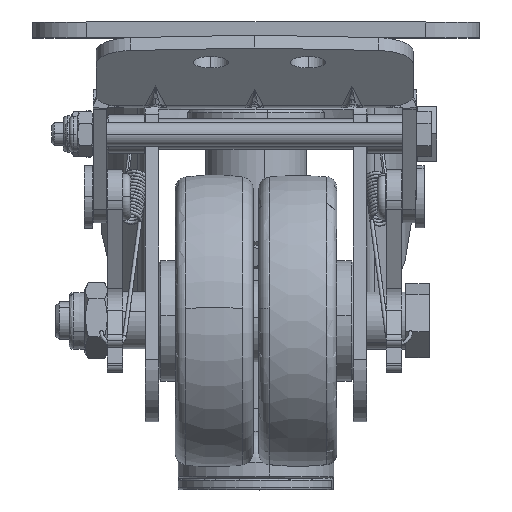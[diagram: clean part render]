
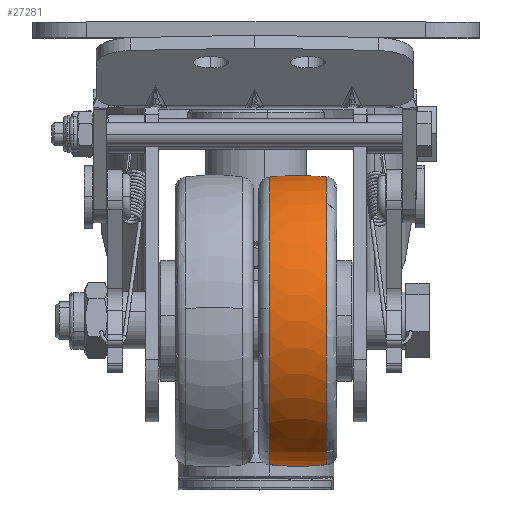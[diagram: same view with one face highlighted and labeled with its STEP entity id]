
A CAD part, top view. The second image highlights one B-rep face of the part: STEP entity #27281.
In plain terms, the highlighted toroidal (fillet/blend) face has major radius 32.5 mm and minor radius 70 mm.
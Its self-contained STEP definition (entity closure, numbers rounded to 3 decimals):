
#233 = DIRECTION ( 'NONE',  ( 0., -1., 0. ) ) ;
#873 = CARTESIAN_POINT ( 'NONE',  ( 10.75, 32.5, 0. ) ) ;
#1495 = AXIS2_PLACEMENT_3D ( 'NONE', #20779, #48176, #6043 ) ;
#2542 = CIRCLE ( 'NONE', #41782, 37.117 ) ;
#4681 = EDGE_CURVE ( 'NONE', #29223, #59093, #34683, .T. ) ;
#5433 = CIRCLE ( 'NONE', #1495, 37.117 ) ;
#6043 = DIRECTION ( 'NONE',  ( 0., 0., 1. ) ) ;
#6661 = FACE_OUTER_BOUND ( 'NONE', #28331, .T. ) ;
#8957 = EDGE_CURVE ( 'NONE', #59093, #18645, #2542, .T. ) ;
#10099 = EDGE_CURVE ( 'NONE', #31866, #29223, #34040, .T. ) ;
#12373 = ORIENTED_EDGE ( 'NONE', *, *, #10099, .T. ) ;
#12508 = DIRECTION ( 'NONE',  ( -1., 0., 0. ) ) ;
#13120 = DIRECTION ( 'NONE',  ( 0., 0., 1. ) ) ;
#15859 = CARTESIAN_POINT ( 'NONE',  ( 10.75, 0., 0. ) ) ;
#16200 = AXIS2_PLACEMENT_3D ( 'NONE', #15859, #30016, #38938 ) ;
#18645 = VERTEX_POINT ( 'NONE', #47803 ) ;
#20012 = AXIS2_PLACEMENT_3D ( 'NONE', #873, #51258, #29113 ) ;
#20779 = CARTESIAN_POINT ( 'NONE',  ( 3.437, 0., 0. ) ) ;
#21563 = CARTESIAN_POINT ( 'NONE',  ( 3.437, 0., 0. ) ) ;
#22075 = TOROIDAL_SURFACE ( 'NONE', #16200, -32.5, 70. ) ;
#22925 = ORIENTED_EDGE ( 'NONE', *, *, #4681, .T. ) ;
#24185 = AXIS2_PLACEMENT_3D ( 'NONE', #59841, #12508, #50625 ) ;
#26019 = EDGE_CURVE ( 'NONE', #31866, #42806, #33771, .T. ) ;
#27281 = ADVANCED_FACE ( 'NONE', ( #6661 ), #22075, .T. ) ;
#27334 = EDGE_CURVE ( 'NONE', #18645, #42806, #5433, .T. ) ;
#28331 = EDGE_LOOP ( 'NONE', ( #12373, #22925, #48501, #38100, #55184 ) ) ;
#28667 = CARTESIAN_POINT ( 'NONE',  ( 3.437, -37.117, 0. ) ) ;
#29113 = DIRECTION ( 'NONE',  ( -1., 0., 0. ) ) ;
#29223 = VERTEX_POINT ( 'NONE', #45318 ) ;
#29742 = AXIS2_PLACEMENT_3D ( 'NONE', #32193, #13120, #233 ) ;
#30016 = DIRECTION ( 'NONE',  ( -1., 0., 0. ) ) ;
#31866 = VERTEX_POINT ( 'NONE', #39787 ) ;
#32193 = CARTESIAN_POINT ( 'NONE',  ( 10.75, -32.5, 0. ) ) ;
#33771 = CIRCLE ( 'NONE', #20012, 70. ) ;
#34040 = CIRCLE ( 'NONE', #24185, 37.117 ) ;
#34683 = CIRCLE ( 'NONE', #29742, 70. ) ;
#34840 = DIRECTION ( 'NONE',  ( 0., 0., 1. ) ) ;
#38100 = ORIENTED_EDGE ( 'NONE', *, *, #27334, .T. ) ;
#38938 = DIRECTION ( 'NONE',  ( 0., -1., 0. ) ) ;
#39787 = CARTESIAN_POINT ( 'NONE',  ( 18.063, -37.117, 0. ) ) ;
#41782 = AXIS2_PLACEMENT_3D ( 'NONE', #21563, #53891, #34840 ) ;
#42806 = VERTEX_POINT ( 'NONE', #28667 ) ;
#45318 = CARTESIAN_POINT ( 'NONE',  ( 18.063, 37.117, 0. ) ) ;
#47677 = CARTESIAN_POINT ( 'NONE',  ( 3.437, 37.117, 0. ) ) ;
#47803 = CARTESIAN_POINT ( 'NONE',  ( 3.437, 0., 37.117 ) ) ;
#48176 = DIRECTION ( 'NONE',  ( 1., 0., 0. ) ) ;
#48501 = ORIENTED_EDGE ( 'NONE', *, *, #8957, .T. ) ;
#50625 = DIRECTION ( 'NONE',  ( 0., 0., 1. ) ) ;
#51258 = DIRECTION ( 'NONE',  ( 0., 0., -1. ) ) ;
#53891 = DIRECTION ( 'NONE',  ( 1., 0., 0. ) ) ;
#55184 = ORIENTED_EDGE ( 'NONE', *, *, #26019, .F. ) ;
#59093 = VERTEX_POINT ( 'NONE', #47677 ) ;
#59841 = CARTESIAN_POINT ( 'NONE',  ( 18.063, 0., 0. ) ) ;
